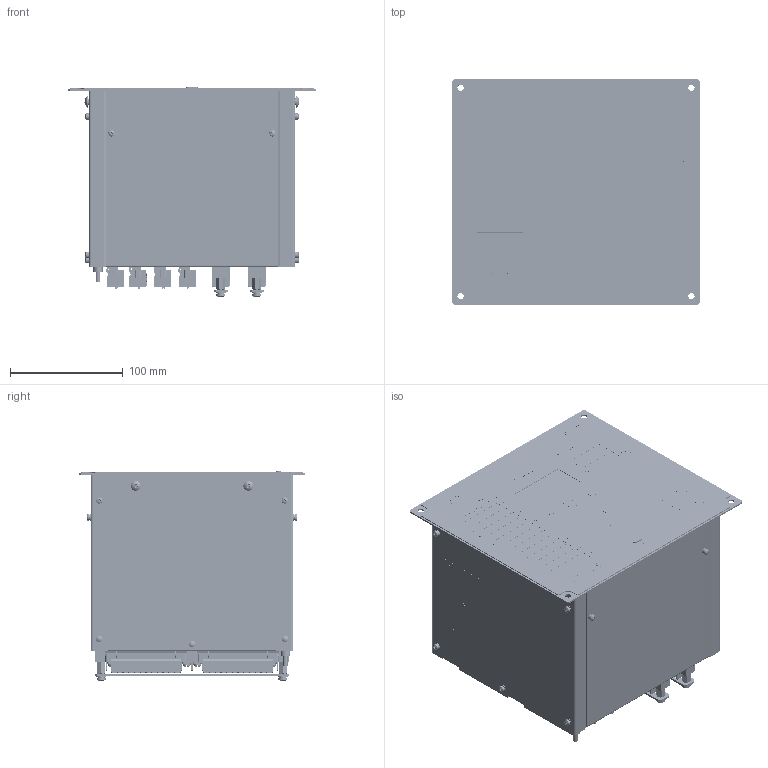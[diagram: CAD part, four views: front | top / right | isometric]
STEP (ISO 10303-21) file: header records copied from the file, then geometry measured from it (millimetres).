
FILE_DESCRIPTION(('STEP AP214'), '1');
FILE_NAME('ﾒﾐﾁﾍ.656122.001-32 - ﾊﾈﾒ-ﾐ', '', ('UNSPECIFIED'), ('UNSPECIFIED'), 'C3D Converter', 'C3D Toolkit', '');
FILE_SCHEMA(('AUTOMOTIVE_DESIGN { 1 0 10303 214 3 1 1}'));
Length unit declared in the file: millimetre
Products named in the file (74): ТРБН.656122.001-32; ТРБН.741128.001; ТРБН.745222.001; ТРБН.301732.001; ТРБН.745422.001; ТРБН.301261.001-30; ТРБН.745512.001-30; ТРБН.434416.011; ТРБН.754342.001; ТРБН.754342.002; ТРБН.434416.012; ТРБН.754342.002-01; ТРБН.434416.013; ТРБН.754342.002-02; ТРБН.434416.014; ТРБН.754342.001-01; ТРБН.754342.002-05; ТРБН.434416.015; ТРБН.754342.002-06; ТРБН.741134.002; ТРБН.754312.001; ТРБН.754342.006; 45H-08P; 45H-08P-01; 691317510004; 6913175100xx_PIN; 6913175100xx_INSERT; 2EDGRHM-5.08-24P-14-00A(H); ТРБН.434416.016; ТРБН.754342.002-07; ТРБН.434416.017; ТРБН.754342.002-08; 691317510012; ТРБН.434416.018; ТРБН.754342.002-03; ТРБН.434416.019; ТРБН.754342.002-04
Assembly tree (160 placements, depth 4):
  ТРБН.656122.001-32
    (unnamed)
      ТРБН.741128.001
      ТРБН.745222.001  x2
    ТРБН.301732.001  x2
      ТРБН.745422.001
      (unnamed)
      (unnamed)
    ТРБН.301261.001-30
      ТРБН.745512.001-30
      (unnamed)  x2
      (unnamed)
    (unnamed)  x4
    (unnamed)
    (unnamed)
    (unnamed)  x10
    (unnamed)
    (unnamed)  x3
    (unnamed)  x12
    (unnamed)  x2
    (unnamed)  x4
    (unnamed)  x4
    (unnamed)  x4
    ТРБН.434416.011
      (unnamed)
      ТРБН.754342.001
      ТРБН.754342.002
    ТРБН.434416.012
      (unnamed)
      ТРБН.754342.001
      ТРБН.754342.002-01
    ТРБН.434416.013
      (unnamed)
      ТРБН.754342.001
      ТРБН.754342.002-02
    ТРБН.434416.014
      (unnamed)
      ТРБН.754342.001-01
      ТРБН.754342.002-05
    ТРБН.434416.015
      (unnamed)
      ТРБН.754342.001-01
      ТРБН.754342.002-06
    ТРБН.741134.002  x2
    ТРБН.754312.001
    (unnamed)
    (unnamed)
    (unnamed)
    (unnamed)
    ТРБН.754342.006
    (unnamed)
    (unnamed)
    (unnamed)  x10
    (unnamed)  x2
    (unnamed)
    (unnamed)  x2
      45H-08P
      45H-08P-01
    (unnamed)  x4
    (unnamed)  x3
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Bounding box: 220 x 200 x 187.02 mm (x, y, z)
Volume: 514281.2 mm3; surface area: 704318.5 mm2
Topology: 293 solids, 311 shells, 44767 faces, 125872 edges, 82873 vertices
Faces by surface type: plane 26088, cylinder 14409, extrusion 2726, torus 908, bspline 368, cone 245, sphere 23
Full cylindrical faces by diameter (mm): 0.405 x8, 0.482 x8, 0.804 x1, 1.371 x1, 1.6 x8, 1.771 x1, 1.8 x18, 2.459 x6, 2.5 x18, 2.6 x20, 2.75 x36, 3 x14, 3.2 x22, 3.242 x5, 3.3 x84, 3.301 x32, 3.4 x8, 3.5 x94, 3.85 x18, 4 x94, 4.2 x6, 4.22 x6, 4.3 x4, 4.5 x13, 5 x6, 5.6 x20, 5.7 x4, 6 x15, 6.35 x6, 6.8 x1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
Entity records: 1301800 total; most frequent: CARTESIAN_POINT 247834, ORIENTED_EDGE 175728, DIRECTION 159211, EDGE_CURVE 87864, VECTOR 63945, LINE 61219, VERTEX_POINT 58449, AXIS2_PLACEMENT_3D 47633
